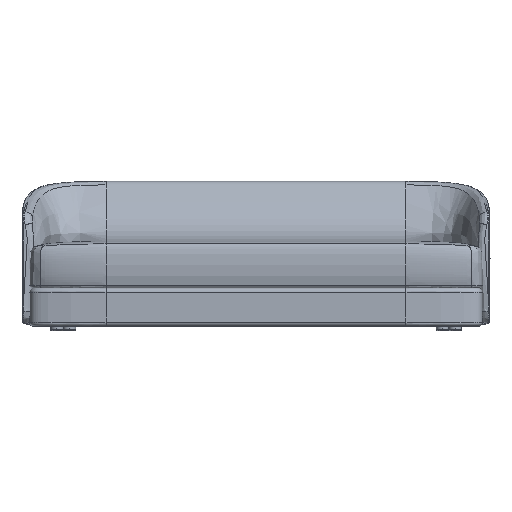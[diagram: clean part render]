
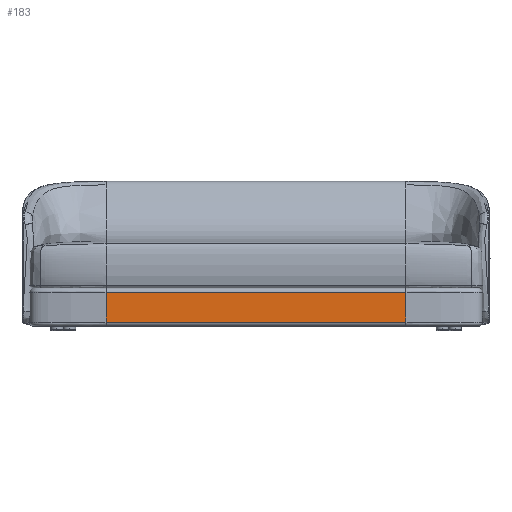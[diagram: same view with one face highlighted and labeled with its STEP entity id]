
A CAD part, front view. The second image highlights one B-rep face of the part: STEP entity #183.
In plain terms, the highlighted planar face has unit normal (0, -1, 0).
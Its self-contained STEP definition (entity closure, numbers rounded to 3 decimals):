
#183=ADVANCED_FACE('',(#321),#2125,.T.);
#321=FACE_OUTER_BOUND('',#459,.T.);
#459=EDGE_LOOP('',(#597,#598,#599,#600));
#597=ORIENTED_EDGE('',*,*,#1183,.T.);
#598=ORIENTED_EDGE('',*,*,#1181,.T.);
#599=ORIENTED_EDGE('',*,*,#1184,.F.);
#600=ORIENTED_EDGE('',*,*,#1182,.F.);
#1181=EDGE_CURVE('',#1815,#1816,#1592,.T.);
#1182=EDGE_CURVE('',#1817,#1818,#1593,.T.);
#1183=EDGE_CURVE('',#1817,#1815,#1594,.T.);
#1184=EDGE_CURVE('',#1818,#1816,#1595,.T.);
#1592=B_SPLINE_CURVE_WITH_KNOTS('',1,(#8142,#8143),.UNSPECIFIED.,.F.,.F.,
(2,2),(0.,1412.579),.UNSPECIFIED.);
#1593=B_SPLINE_CURVE_WITH_KNOTS('',1,(#8144,#8145),.UNSPECIFIED.,.F.,.F.,
(2,2),(0.,1412.579),.UNSPECIFIED.);
#1594=B_SPLINE_CURVE_WITH_KNOTS('',1,(#8146,#8147),.UNSPECIFIED.,.F.,.F.,
(2,2),(1455.772,1595.772),.UNSPECIFIED.);
#1595=B_SPLINE_CURVE_WITH_KNOTS('',1,(#8148,#8149),.UNSPECIFIED.,.F.,.F.,
(2,2),(1455.772,1595.772),.UNSPECIFIED.);
#1815=VERTEX_POINT('',#8110);
#1816=VERTEX_POINT('',#8111);
#1817=VERTEX_POINT('',#8112);
#1818=VERTEX_POINT('',#8113);
#2125=PLANE('',#2201);
#2201=AXIS2_PLACEMENT_3D('',#2266,#2229,$);
#2229=DIRECTION('',(0.,-1.,0.));
#2266=CARTESIAN_POINT('',(481.002,-255.332,40.265));
#8110=CARTESIAN_POINT('',(481.002,-255.332,180.265));
#8111=CARTESIAN_POINT('',(-931.577,-255.332,180.265));
#8112=CARTESIAN_POINT('',(481.002,-255.332,40.265));
#8113=CARTESIAN_POINT('',(-931.577,-255.332,40.265));
#8142=CARTESIAN_POINT('',(481.002,-255.332,180.265));
#8143=CARTESIAN_POINT('',(-931.577,-255.332,180.265));
#8144=CARTESIAN_POINT('',(481.002,-255.332,40.265));
#8145=CARTESIAN_POINT('',(-931.577,-255.332,40.265));
#8146=CARTESIAN_POINT('',(481.002,-255.332,40.265));
#8147=CARTESIAN_POINT('',(481.002,-255.332,180.265));
#8148=CARTESIAN_POINT('',(-931.577,-255.332,40.265));
#8149=CARTESIAN_POINT('',(-931.577,-255.332,180.265));
